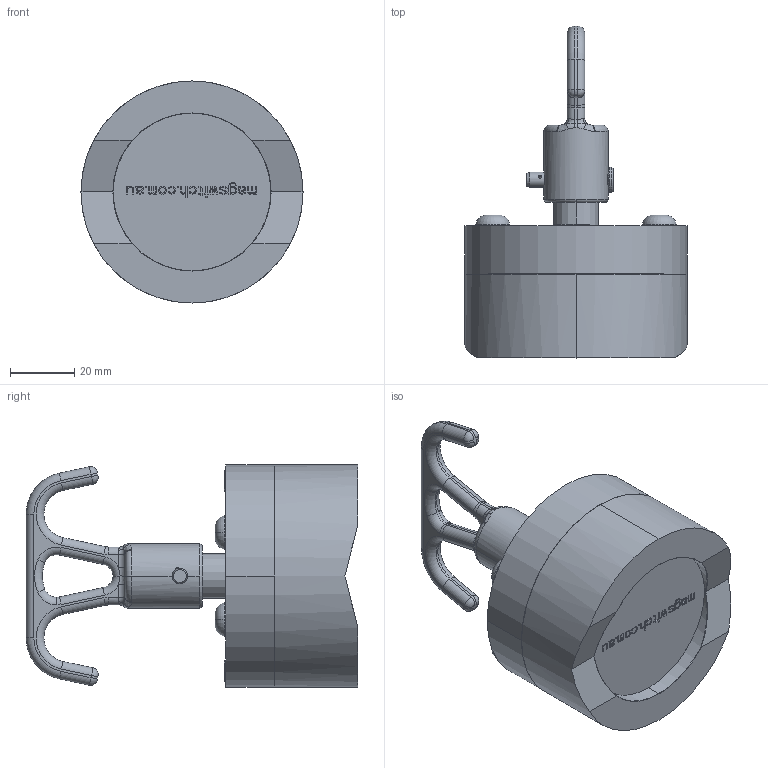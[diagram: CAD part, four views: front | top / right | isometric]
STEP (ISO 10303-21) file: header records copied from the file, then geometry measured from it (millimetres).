
FILE_DESCRIPTION (( 'STEP AP203' ), '1' );
FILE_NAME ('8000006.STEP', '2013-10-02T15:39:08', ( '' ), ( '' ), 'SwSTEP 2.0', 'SolidWorks 2010', '' );
FILE_SCHEMA (( 'CONFIG_CONTROL_DESIGN' ));
Length unit declared in the file: millimetre
Products named in the file (1): 8000006
Bounding box: 69 x 103.05 x 69 mm (x, y, z)
Surface area: 25537.3 mm2 (no closed solid volume)
Topology: 0 solids, 13 shells, 682 faces, 2710 edges, 1914 vertices
Faces by surface type: plane 397, bspline 115, cylinder 78, torus 51, cone 41
Entity records: 39161 total; most frequent: CARTESIAN_POINT 18038, ORIENTED_EDGE 4236, DIRECTION 3754, EDGE_CURVE 2708, VECTOR 1982, LINE 1982, VERTEX_POINT 1914, AXIS2_PLACEMENT_3D 886
